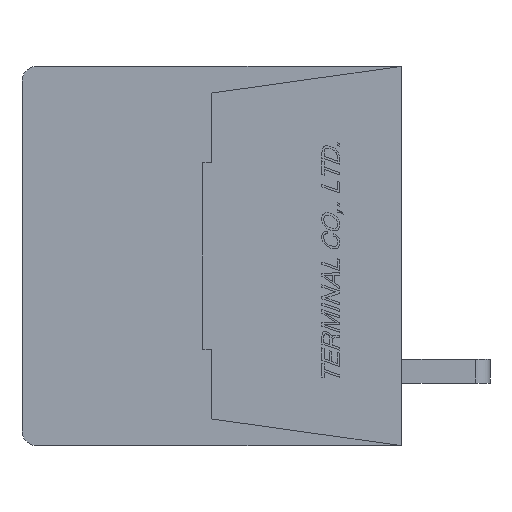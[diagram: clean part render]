
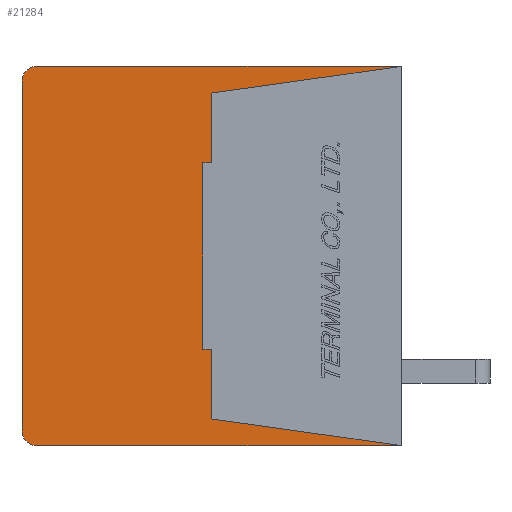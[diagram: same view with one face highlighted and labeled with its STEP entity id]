
A CAD part, left-side view. The second image highlights one B-rep face of the part: STEP entity #21284.
In plain terms, the highlighted planar face has unit normal (-1, 0, 0) as drawn and (1, 0, 0) by its records, which use the part's own axes.
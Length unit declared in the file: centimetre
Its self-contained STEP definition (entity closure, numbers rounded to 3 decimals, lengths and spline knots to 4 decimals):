
#1077=CIRCLE('',#36180,0.05);
#1078=CIRCLE('',#36181,0.05);
#1810=VERTEX_POINT('',#29163);
#1811=VERTEX_POINT('',#29165);
#1817=VERTEX_POINT('',#29179);
#1819=VERTEX_POINT('',#29185);
#1822=VERTEX_POINT('',#29193);
#1824=VERTEX_POINT('',#29199);
#1830=VERTEX_POINT('',#29213);
#1832=VERTEX_POINT('',#29219);
#2183=VERTEX_POINT('',#30759);
#2184=VERTEX_POINT('',#30761);
#2185=VERTEX_POINT('',#30763);
#2186=VERTEX_POINT('',#30765);
#4040=VECTOR('',#24150,1.);
#4047=VECTOR('',#24158,1.);
#4050=VECTOR('',#24162,1.);
#4053=VECTOR('',#24168,1.);
#4056=VECTOR('',#24172,1.);
#4063=VECTOR('',#24180,1.);
#4066=VECTOR('',#24184,1.);
#4486=VECTOR('',#24755,1.);
#4487=VECTOR('',#24758,1.);
#4488=VECTOR('',#24761,1.);
#6537=LINE('',#29164,#4040);
#6544=LINE('',#29178,#4047);
#6547=LINE('',#29184,#4050);
#6550=LINE('',#29192,#4053);
#6553=LINE('',#29198,#4056);
#6560=LINE('',#29212,#4063);
#6563=LINE('',#29218,#4066);
#6983=LINE('',#30758,#4486);
#6984=LINE('',#30762,#4487);
#6985=LINE('',#30766,#4488);
#9263=EDGE_CURVE('',#1811,#1810,#6537,.T.);
#9270=EDGE_CURVE('',#1817,#1811,#6544,.T.);
#9273=EDGE_CURVE('',#1819,#1817,#6547,.T.);
#9277=EDGE_CURVE('',#1822,#1819,#6550,.T.);
#9280=EDGE_CURVE('',#1824,#1822,#6553,.T.);
#9287=EDGE_CURVE('',#1830,#1824,#6560,.T.);
#9290=EDGE_CURVE('',#1832,#1830,#6563,.T.);
#9818=EDGE_CURVE('',#1810,#2183,#6983,.T.);
#9819=EDGE_CURVE('',#2184,#2183,#1077,.T.);
#9820=EDGE_CURVE('',#2184,#2185,#6984,.T.);
#9821=EDGE_CURVE('',#2186,#2185,#1078,.T.);
#9822=EDGE_CURVE('',#2186,#1832,#6985,.T.);
#14491=ORIENTED_EDGE('',*,*,#9263,.T.);
#14492=ORIENTED_EDGE('',*,*,#9818,.T.);
#14493=ORIENTED_EDGE('',*,*,#9819,.F.);
#14494=ORIENTED_EDGE('',*,*,#9820,.T.);
#14495=ORIENTED_EDGE('',*,*,#9821,.F.);
#14496=ORIENTED_EDGE('',*,*,#9822,.T.);
#14497=ORIENTED_EDGE('',*,*,#9290,.T.);
#14498=ORIENTED_EDGE('',*,*,#9287,.T.);
#14499=ORIENTED_EDGE('',*,*,#9280,.T.);
#14500=ORIENTED_EDGE('',*,*,#9277,.T.);
#14501=ORIENTED_EDGE('',*,*,#9273,.T.);
#14502=ORIENTED_EDGE('',*,*,#9270,.T.);
#18593=EDGE_LOOP('',(#14491,#14492,#14493,#14494,#14495,#14496,#14497,#14498,
#14499,#14500,#14501,#14502));
#19984=FACE_BOUND('',#18593,.T.);
#21284=ADVANCED_FACE('',(#19984),#22386,.F.);
#22386=PLANE('',#36179);
#24150=DIRECTION('',(0.,-0.99,-0.139));
#24158=DIRECTION('',(0.,0.,-1.));
#24162=DIRECTION('',(0.,-1.,0.));
#24168=DIRECTION('',(0.,0.,-1.));
#24172=DIRECTION('',(0.,1.,0.));
#24180=DIRECTION('',(0.,0.,-1.));
#24184=DIRECTION('',(0.,0.99,-0.139));
#24754=DIRECTION('',(-1.,0.,0.));
#24755=DIRECTION('',(0.,1.,0.));
#24756=DIRECTION('',(-1.,0.,0.));
#24757=DIRECTION('',(0.,0.,0.05));
#24758=DIRECTION('',(0.,0.,1.));
#24759=DIRECTION('',(-1.,0.,0.));
#24760=DIRECTION('',(0.,0.,0.05));
#24761=DIRECTION('',(0.,-1.,0.));
#29163=CARTESIAN_POINT('',(0.,0.,-0.64));
#29164=CARTESIAN_POINT('',(0.,0.64,-0.55));
#29165=CARTESIAN_POINT('',(0.,0.64,-0.55));
#29178=CARTESIAN_POINT('',(0.,0.64,-0.315));
#29179=CARTESIAN_POINT('',(0.,0.64,-0.315));
#29184=CARTESIAN_POINT('',(0.,0.67,-0.315));
#29185=CARTESIAN_POINT('',(0.,0.67,-0.315));
#29192=CARTESIAN_POINT('',(0.,0.67,0.315));
#29193=CARTESIAN_POINT('',(0.,0.67,0.315));
#29198=CARTESIAN_POINT('',(0.,0.64,0.315));
#29199=CARTESIAN_POINT('',(0.,0.64,0.315));
#29212=CARTESIAN_POINT('',(0.,0.64,0.55));
#29213=CARTESIAN_POINT('',(0.,0.64,0.55));
#29218=CARTESIAN_POINT('',(0.,0.,0.64));
#29219=CARTESIAN_POINT('',(0.,0.,0.64));
#30757=CARTESIAN_POINT('',(0.,0.6345,0.));
#30758=CARTESIAN_POINT('',(0.,0.,
-0.64));
#30759=CARTESIAN_POINT('',(0.,1.23,-0.64));
#30760=CARTESIAN_POINT('',(0.,1.23,-0.59));
#30761=CARTESIAN_POINT('',(0.,1.28,-0.59));
#30762=CARTESIAN_POINT('',(0.,1.28,-0.59));
#30763=CARTESIAN_POINT('',(0.,1.28,0.59));
#30764=CARTESIAN_POINT('',(0.,1.23,0.59));
#30765=CARTESIAN_POINT('',(0.,1.23,0.64));
#30766=CARTESIAN_POINT('',(0.,1.23,0.64));
#36179=AXIS2_PLACEMENT_3D('',#30757,#24754,$);
#36180=AXIS2_PLACEMENT_3D('',#30760,#24756,#24757);
#36181=AXIS2_PLACEMENT_3D('',#30764,#24759,#24760);
